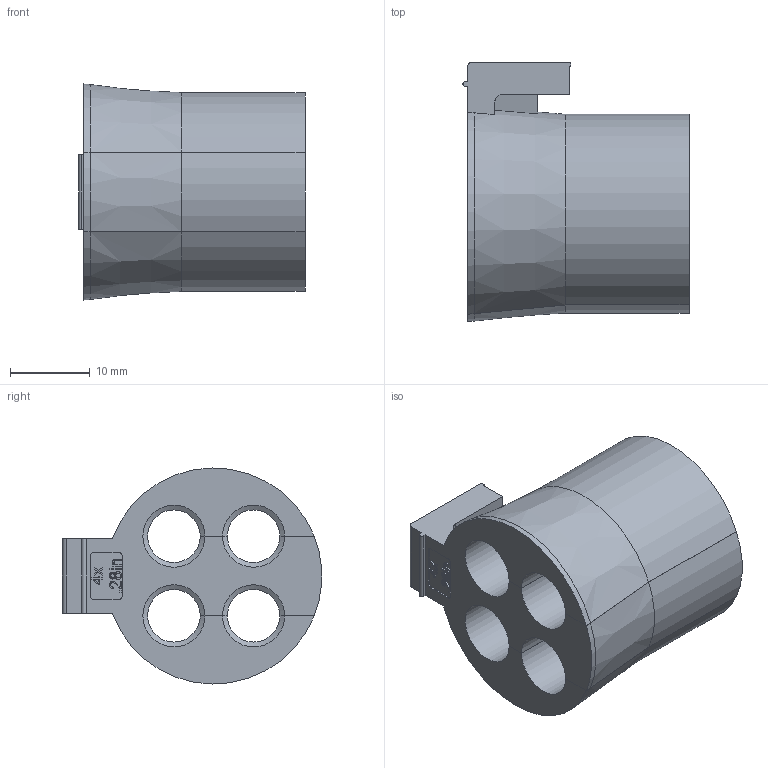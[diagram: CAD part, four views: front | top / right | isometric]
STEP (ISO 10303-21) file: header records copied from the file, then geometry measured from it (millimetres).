
FILE_DESCRIPTION(/* description */ (''),/* implementation_level */ '2;1');
FILE_NAME(/* name */ 'H:\SapWorkDir\Inventor\MP1\ConvertTempPath\87_12_121341_00_A_220525_KDT-X 4x7.stp',/* time_stamp */ '2022-05-25T14:14:52+02:00',/* author */ ('BAUER'),/* organization */ (''),/* preprocessor_version */ 'ST-DEVELOPER v16.13',/* originating_system */ 'Autodesk Inventor 2018',/* authorisation */ '');
FILE_SCHEMA (('AUTOMOTIVE_DESIGN { 1 0 10303 214 3 1 1 }'));
Length unit declared in the file: millimetre
Products named in the file (1): 121341
Bounding box: 28.4 x 32.53 x 27.14 mm (x, y, z)
Volume: 9493.3 mm3; surface area: 6638.5 mm2
Topology: 1 solids, 1 shells, 170 faces, 470 edges, 314 vertices
Faces by surface type: plane 92, bspline 32, cylinder 29, cone 17
Entity records: 5598 total; most frequent: CARTESIAN_POINT 1379, ORIENTED_EDGE 940, DIRECTION 745, EDGE_CURVE 470, LINE 333, VECTOR 333, VERTEX_POINT 314, AXIS2_PLACEMENT_3D 206
